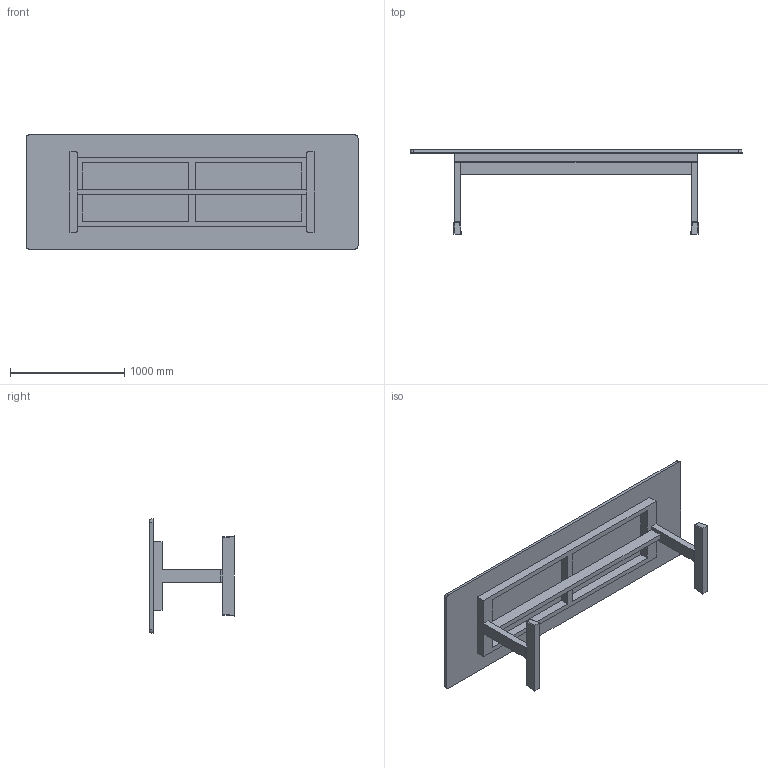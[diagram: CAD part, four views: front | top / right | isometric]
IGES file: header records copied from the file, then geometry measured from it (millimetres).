
Start section: SolidWorks IGES file using analytic representation for surfaces
Global section: file name: C:\Users\David.BDLE\Desktop\405FL Refectory Fixed Table_va\405FL Refectory Fixed Table_3D IGS.IGS; native system: SolidWorks 2016; preprocessor: SolidWorks 2016; author: David; date: 210614.131430; units: millimetre
Bounding box: 2900 x 740 x 1000 mm (x, y, z)
Surface area: 8251254.2 mm2 (no closed solid volume)
Topology: 0 solids, 0 shells, 83 faces, 1272 edges, 1272 vertices
Faces by surface type: bspline 55, revolution 28
